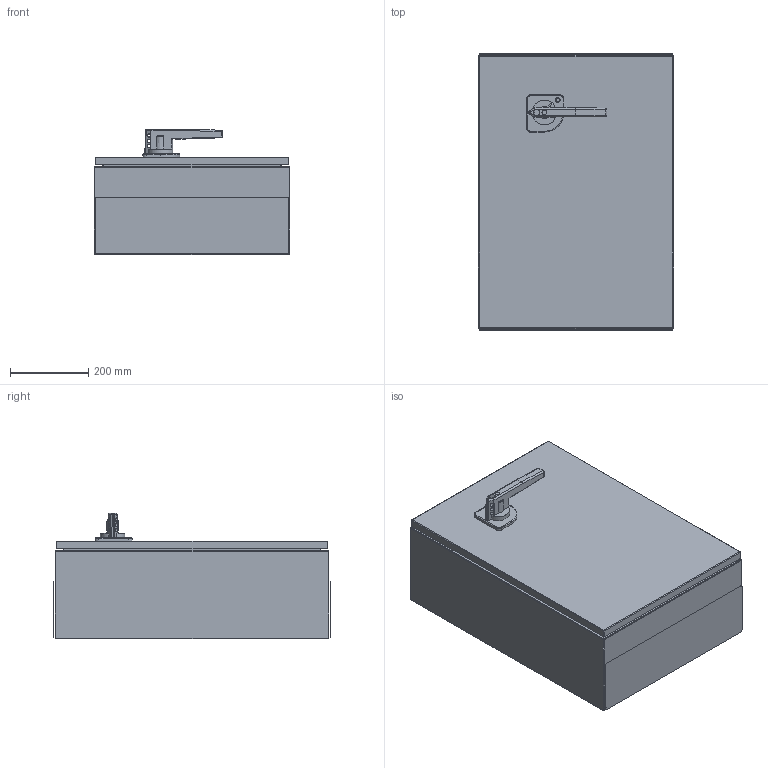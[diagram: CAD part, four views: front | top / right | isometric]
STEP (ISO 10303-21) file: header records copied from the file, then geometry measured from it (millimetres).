
FILE_DESCRIPTION(/* description */ (''),/* implementation_level */ '2;1');
FILE_NAME(/* name */ '4003066.stp',/* time_stamp */ '2016-09-22T13:48:59+02:00',/* author */ (''),/* organization */ (''),/* preprocessor_version */ 'ST-DEVELOPER v16',/* originating_system */ 'SIEMENS PLM Software NX 11.0',/* authorisation */ '');
FILE_SCHEMA (('AUTOMOTIVE_DESIGN { 1 0 10303 214 3 1 1 1 }'));
Length unit declared in the file: millimetre
Products named in the file (1): 4003066_LINKEDEXT_jt
Bounding box: 500 x 706 x 321.5 mm (x, y, z)
Surface area: 1426336.5 mm2 (no closed solid volume)
Topology: 0 solids, 24 shells, 117 faces, 408 edges, 296 vertices
Faces by surface type: cylinder 47, plane 44, torus 9, bspline 9, sphere 5, cone 3
Full cylindrical faces by diameter (mm): 8 x4, 8.5 x6
Entity records: 5158 total; most frequent: CARTESIAN_POINT 1345, DIRECTION 677, ORIENTED_EDGE 559, EDGE_CURVE 389, VERTEX_POINT 290, AXIS2_PLACEMENT_3D 235, LINE 207, VECTOR 207
